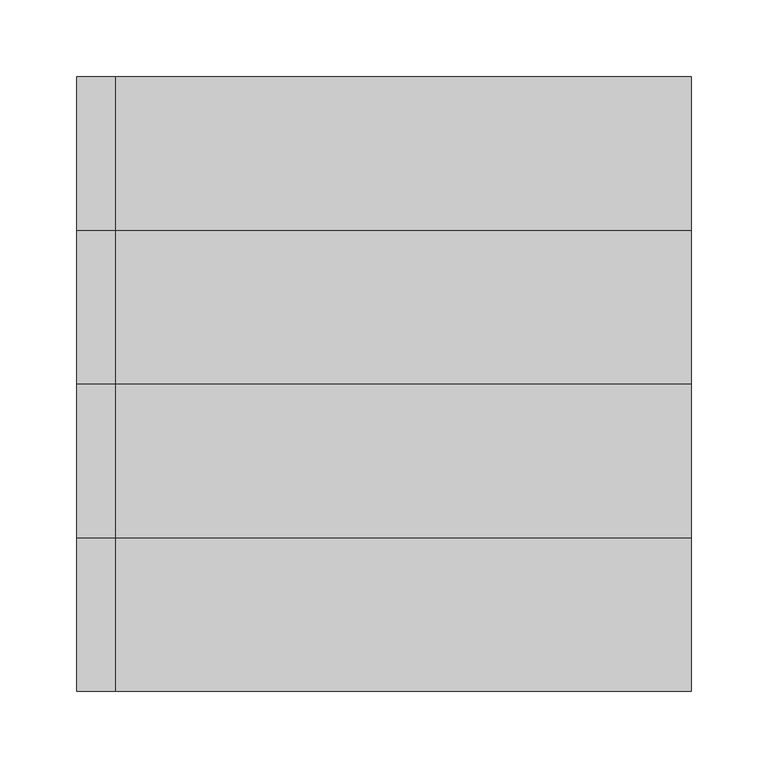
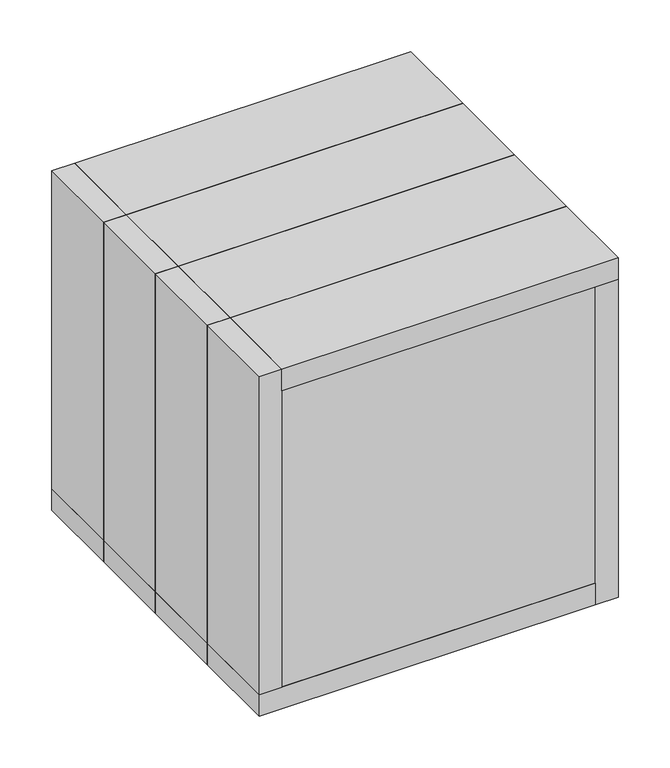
"""IFC4 building model written with IfcOpenShell, lengths in millimetres: furniture geometry, 1.7 Taburete bajo : 1.7 Taburete bajo."""

from ifc_helpers import new_model, si_unit, frame, origin, origin_with_axes, place, context, project, spatial, polyline, outline, extrude, source, transform, mapped, element, save


def furniture_2009737b(model_context):
    return source(origin(), model_context, "Body", "SweptSolid", [
        extrude(outline(polyline([(200.0, 200.0), (200.0, 100.0), (-174.6, 100.0), (-174.6, 200.0), (200.0, 200.0)])), frame((0.0, 0.0, 374.6), z_axis=(0.0, 0.0, 1.0), x_axis=(1.0, 0.0, 0.0)), (0.0, 0.0, 1.0), 25.4),
        extrude(outline(polyline([(200.0, 100.0), (200.0, 0.0), (-174.6, 0.0), (-174.6, 100.0), (200.0, 100.0)])), frame((0.0, 0.0, 374.6), z_axis=(0.0, 0.0, 1.0), x_axis=(1.0, 0.0, 0.0)), (0.0, 0.0, 1.0), 25.4),
        extrude(outline(polyline([(200.0, 0.0), (200.0, -100.0), (-174.6, -100.0), (-174.6, 0.0), (200.0, 0.0)])), frame((0.0, 0.0, 374.6), z_axis=(0.0, 0.0, 1.0), x_axis=(1.0, 0.0, 0.0)), (0.0, 0.0, 1.0), 25.4),
        extrude(outline(polyline([(200.0, -100.0), (200.0, -200.0), (-174.6, -200.0), (-174.6, -100.0), (200.0, -100.0)])), frame((0.0, 0.0, 374.6), z_axis=(0.0, 0.0, 1.0), x_axis=(1.0, 0.0, 0.0)), (0.0, 0.0, 1.0), 25.4),
        extrude(outline(polyline([(-200.0, 100.0), (-200.0, 200.0), (-174.6, 200.0), (-174.6, 100.0), (-200.0, 100.0)])), frame((0.0, 0.0, 25.4), z_axis=(0.0, 0.0, 1.0), x_axis=(1.0, 0.0, 0.0)), (0.0, 0.0, 1.0), 374.6),
        extrude(outline(polyline([(-200.0, 0.0), (-200.0, 100.0), (-174.6, 100.0), (-174.6, 0.0), (-200.0, 0.0)])), frame((0.0, 0.0, 25.4), z_axis=(0.0, 0.0, 1.0), x_axis=(1.0, 0.0, 0.0)), (0.0, 0.0, 1.0), 374.6),
        extrude(outline(polyline([(-200.0, -100.0), (-200.0, 0.0), (-174.6, 0.0), (-174.6, -100.0), (-200.0, -100.0)])), frame((0.0, 0.0, 25.4), z_axis=(0.0, 0.0, 1.0), x_axis=(1.0, 0.0, 0.0)), (0.0, 0.0, 1.0), 374.6),
        extrude(outline(polyline([(-200.0, -200.0), (-200.0, -100.0), (-174.6, -100.0), (-174.6, -200.0), (-200.0, -200.0)])), frame((0.0, 0.0, 25.4), z_axis=(0.0, 0.0, 1.0), x_axis=(1.0, 0.0, 0.0)), (0.0, 0.0, 1.0), 374.6),
        extrude(outline(polyline([(174.6, 200.0), (174.6, 100.0), (-200.0, 100.0), (-200.0, 200.0), (174.6, 200.0)])), origin_with_axes(), (0.0, 0.0, 1.0), 25.4),
        extrude(outline(polyline([(174.6, 100.0), (174.6, 0.0), (-200.0, 0.0), (-200.0, 100.0), (174.6, 100.0)])), origin_with_axes(), (0.0, 0.0, 1.0), 25.4),
        extrude(outline(polyline([(174.6, 0.0), (174.6, -100.0), (-200.0, -100.0), (-200.0, 0.0), (174.6, 0.0)])), origin_with_axes(), (0.0, 0.0, 1.0), 25.4),
        extrude(outline(polyline([(174.6, -100.0), (174.6, -200.0), (-200.0, -200.0), (-200.0, -100.0), (174.6, -100.0)])), origin_with_axes(), (0.0, 0.0, 1.0), 25.4),
        extrude(outline(polyline([(174.6, 100.0), (174.6, 200.0), (200.0, 200.0), (200.0, 100.0), (174.6, 100.0)])), origin_with_axes(), (0.0, 0.0, 1.0), 374.6),
        extrude(outline(polyline([(174.6, 0.0), (174.6, 100.0), (200.0, 100.0), (200.0, 0.0), (174.6, 0.0)])), origin_with_axes(), (0.0, 0.0, 1.0), 374.6),
        extrude(outline(polyline([(174.6, -100.0), (174.6, 0.0), (200.0, 0.0), (200.0, -100.0), (174.6, -100.0)])), origin_with_axes(), (0.0, 0.0, 1.0), 374.6),
        extrude(outline(polyline([(174.6, -200.0), (174.6, -100.0), (200.0, -100.0), (200.0, -200.0), (174.6, -200.0)])), origin_with_axes(), (0.0, 0.0, 1.0), 374.6),
        extrude(outline(polyline([(-174.6, 174.6), (-174.6, 200.0), (174.6, 200.0), (174.6, 174.6), (-174.6, 174.6)])), frame((0.0, 0.0, 25.4), z_axis=(0.0, 0.0, 1.0), x_axis=(1.0, 0.0, 0.0)), (0.0, 0.0, 1.0), 349.2),
        extrude(outline(polyline([(174.6, 174.6), (174.6, 136.5), (149.2, 136.5), (149.2, 174.6), (174.6, 174.6)])), frame((0.0, 0.0, 25.4), z_axis=(0.0, 0.0, 1.0), x_axis=(1.0, 0.0, 0.0)), (0.0, 0.0, 1.0), 349.2),
        extrude(outline(polyline([(-149.2, 174.6), (149.2, 174.6), (149.2, 136.5), (-149.2, 136.5), (-149.2, 174.6)])), frame((0.0, 0.0, 349.2), z_axis=(0.0, 0.0, 1.0), x_axis=(1.0, 0.0, 0.0)), (0.0, 0.0, 1.0), 25.4),
        extrude(outline(polyline([(-149.2, 174.6), (-149.2, 136.5), (-174.6, 136.5), (-174.6, 174.6), (-149.2, 174.6)])), frame((0.0, 0.0, 25.4), z_axis=(0.0, 0.0, 1.0), x_axis=(1.0, 0.0, 0.0)), (0.0, 0.0, 1.0), 349.2),
        extrude(outline(polyline([(-149.2, 174.6), (149.2, 174.6), (149.2, 136.5), (-149.2, 136.5), (-149.2, 174.6)])), frame((0.0, 0.0, 25.4), z_axis=(0.0, 0.0, 1.0), x_axis=(1.0, 0.0, 0.0)), (0.0, 0.0, 1.0), 25.4),
        extrude(outline(polyline([(-174.6, -200.0), (-174.6, -174.6), (174.6, -174.6), (174.6, -200.0), (-174.6, -200.0)])), frame((0.0, 0.0, 25.4), z_axis=(0.0, 0.0, 1.0), x_axis=(1.0, 0.0, 0.0)), (0.0, 0.0, 1.0), 349.2),
        extrude(outline(polyline([(174.6, -136.5), (174.6, -174.6), (149.2, -174.6), (149.2, -136.5), (174.6, -136.5)])), frame((0.0, 0.0, 25.4), z_axis=(0.0, 0.0, 1.0), x_axis=(1.0, 0.0, 0.0)), (0.0, 0.0, 1.0), 349.2),
        extrude(outline(polyline([(149.2, -174.6), (-149.2, -174.6), (-149.2, -136.5), (149.2, -136.5), (149.2, -174.6)])), frame((0.0, 0.0, 349.2), z_axis=(0.0, 0.0, 1.0), x_axis=(1.0, 0.0, 0.0)), (0.0, 0.0, 1.0), 25.4),
        extrude(outline(polyline([(-149.2, -136.5), (-149.2, -174.6), (-174.6, -174.6), (-174.6, -136.5), (-149.2, -136.5)])), frame((0.0, 0.0, 25.4), z_axis=(0.0, 0.0, 1.0), x_axis=(1.0, 0.0, 0.0)), (0.0, 0.0, 1.0), 349.2),
        extrude(outline(polyline([(149.2, -174.6), (-149.2, -174.6), (-149.2, -136.5), (149.2, -136.5), (149.2, -174.6)])), frame((0.0, 0.0, 25.4), z_axis=(0.0, 0.0, 1.0), x_axis=(1.0, 0.0, 0.0)), (0.0, 0.0, 1.0), 25.4),
    ])


if __name__ == "__main__":
    model = new_model("IFC4")
    model_context = context("Model", 3, world=origin())
    ifc_project = project(units=[si_unit("LENGTHUNIT", "METRE", prefix="MILLI")], contexts=[model_context])
    site = spatial("IfcSite", under=ifc_project)
    building = spatial("IfcBuilding", under=site)
    placement = place(None, origin())
    furniture_shape = furniture_2009737b(model_context)
    element("IfcFurniture", 1, ObjectType="1.7 Taburete bajo : 1.7 Taburete bajo", at=placement, inside=building, context=model_context, shape_type="MappedRepresentation", body=[
        mapped(furniture_shape, transform((0.0, 0.0, 0.0), x_axis=(1.0, 0.0, 0.0), y_axis=(0.0, 1.0, 0.0), z_axis=(0.0, 0.0, 1.0))),
    ])
    save(model, "model.ifc")
